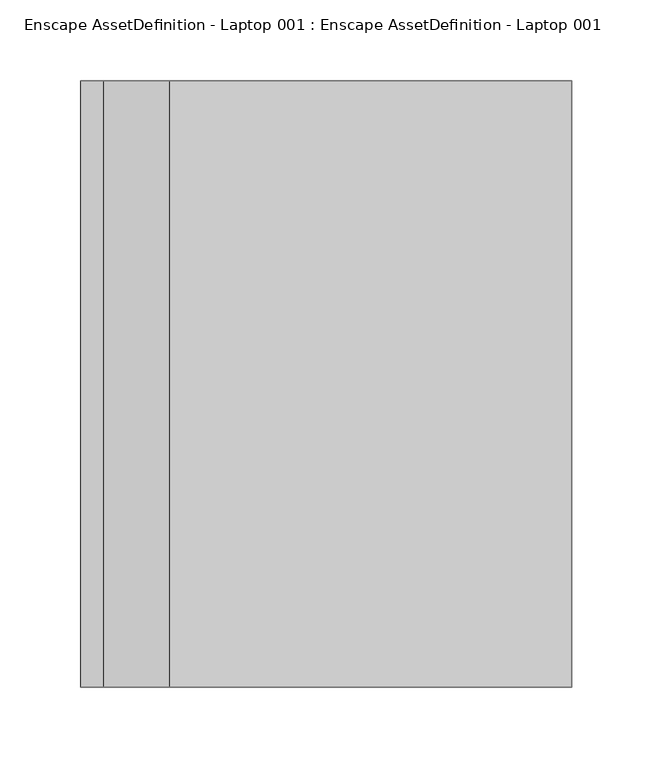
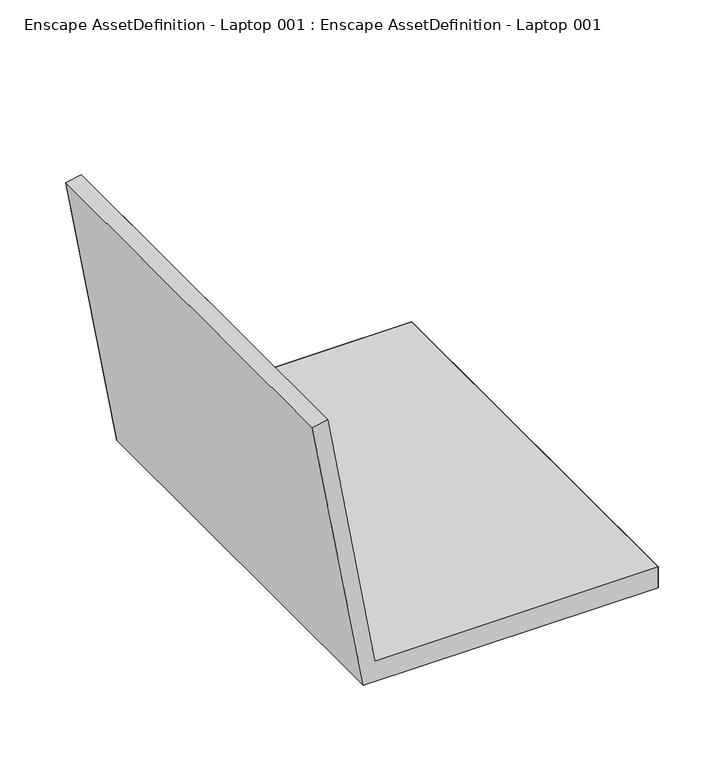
"""IFC4 building model written with IfcOpenShell, lengths in millimetres: geographic element geometry, Enscape AssetDefinition - Laptop 001 : Enscape AssetDefinition - Laptop 001."""

from ifc_helpers import new_model, si_unit, origin, place, context, project, spatial, triangles, source, transform, mapped, element, save


def enscape_assetdefinition_laptop_001_enscape_assetdefinition_056d9dbe(model_context):
    return source(origin(), model_context, "Body", "Tessellation", [
        triangles([(-124.5322152, -188.1964887, 19.2588876), (-165.6852719, -188.1964887, 258.0093059), (-179.5636036, -188.1964887, 255.5110754), (-134.5501993, -188.1964887, 0.0), (125.003262, -188.1964887, 19.6829328), (125.003262, 187.8694375, 0.0), (125.003262, 187.8694375, 19.6829328), (125.003262, -188.1964887, 0.0), (-134.5501993, 187.8694375, 0.0), (-124.5322152, 187.8694375, 19.2588876), (-179.5636036, 187.8694375, 255.5110754), (-165.6852719, 187.8694375, 258.0093059)], [[1, 2, 3], [3, 4, 1], [2, 12, 11], [11, 3, 2], [12, 10, 9], [9, 11, 12], [10, 7, 6], [6, 9, 10], [7, 5, 8], [8, 6, 7], [5, 1, 4], [4, 8, 5], [11, 9, 4], [4, 3, 11], [1, 10, 12], [12, 2, 1], [1, 5, 7], [7, 10, 1]], closed=False),
    ])


if __name__ == "__main__":
    model = new_model("IFC4")
    model_context = context("Model", 3, world=origin())
    ifc_project = project(units=[si_unit("LENGTHUNIT", "METRE", prefix="MILLI")], contexts=[model_context])
    site = spatial("IfcSite", under=ifc_project)
    building = spatial("IfcBuilding", under=site)
    placement = place(None, origin())
    enscape_assetdefinition_laptop_001_enscape_assetdefinition_shape = enscape_assetdefinition_laptop_001_enscape_assetdefinition_056d9dbe(model_context)
    element("IfcGeographicElement", 1, ObjectType="Enscape AssetDefinition - Laptop 001 : Enscape AssetDefinition - Laptop 001", at=placement, inside=building, context=model_context, shape_type="MappedRepresentation", body=[
        mapped(enscape_assetdefinition_laptop_001_enscape_assetdefinition_shape, transform((0.0, 0.0, 0.0), x_axis=(1.0, 0.0, 0.0), y_axis=(0.0, 1.0, 0.0), z_axis=(0.0, 0.0, 1.0))),
    ])
    save(model, "model.ifc")
